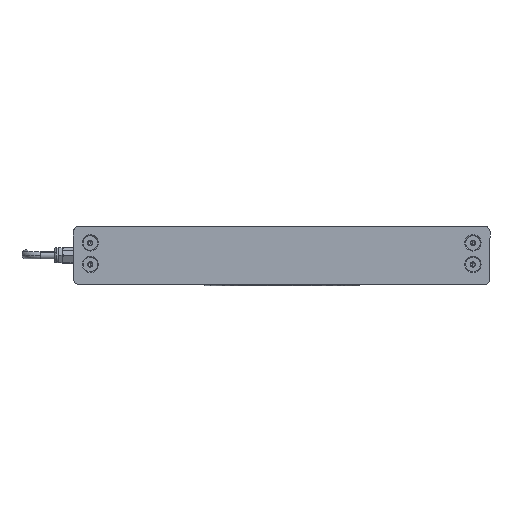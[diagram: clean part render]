
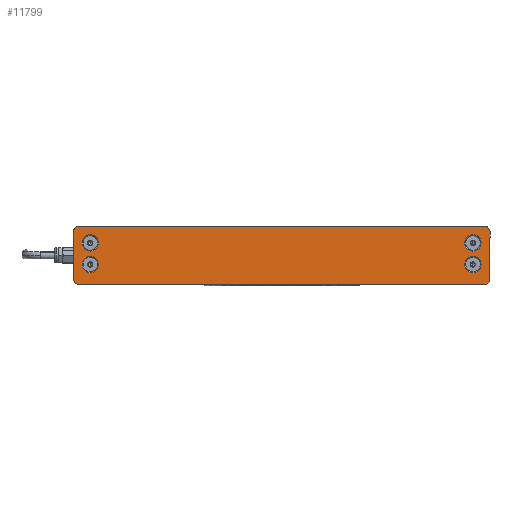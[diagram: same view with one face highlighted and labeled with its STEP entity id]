
A CAD part, left-side view. The second image highlights one B-rep face of the part: STEP entity #11799.
In plain terms, the highlighted planar face has unit normal (-1, 0, 0) as drawn and (0, 0, -1) by its records, which use the part's own axes.
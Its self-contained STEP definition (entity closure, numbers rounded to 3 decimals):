
#51 = ORIENTED_EDGE ( 'NONE', *, *, #17720, .F. ) ;
#259 = CARTESIAN_POINT ( 'NONE',  ( -139., 20., 0. ) ) ;
#484 = DIRECTION ( 'NONE',  ( 0., 0., 1. ) ) ;
#670 = FACE_BOUND ( 'NONE', #11288, .T. ) ;
#966 = CIRCLE ( 'NONE', #5995, 5.6 ) ;
#990 = CIRCLE ( 'NONE', #16155, 4. ) ;
#1083 = DIRECTION ( 'NONE',  ( 0., 0., -1. ) ) ;
#1392 = EDGE_CURVE ( 'NONE', #20185, #16234, #966, .T. ) ;
#1502 = CIRCLE ( 'NONE', #8713, 5.6 ) ;
#1553 = EDGE_LOOP ( 'NONE', ( #11889, #51 ) ) ;
#1567 = VERTEX_POINT ( 'NONE', #21733 ) ;
#1645 = CARTESIAN_POINT ( 'NONE',  ( -136.9, 8.5, 0. ) ) ;
#1744 = EDGE_CURVE ( 'NONE', #23253, #9575, #16129, .T. ) ;
#1856 = DIRECTION ( 'NONE',  ( 0., 0., -1. ) ) ;
#2040 = LINE ( 'NONE', #6143, #6807 ) ;
#2194 = ORIENTED_EDGE ( 'NONE', *, *, #12854, .F. ) ;
#2305 = CIRCLE ( 'NONE', #5258, 5.6 ) ;
#2333 = CARTESIAN_POINT ( 'NONE',  ( 139., -16., 0. ) ) ;
#2732 = VERTEX_POINT ( 'NONE', #10463 ) ;
#2895 = PLANE ( 'NONE',  #9731 ) ;
#3016 = ORIENTED_EDGE ( 'NONE', *, *, #24455, .F. ) ;
#3921 = VECTOR ( 'NONE', #19137, 1000. ) ;
#3988 = CIRCLE ( 'NONE', #23305, 5.6 ) ;
#4315 = DIRECTION ( 'NONE',  ( 0., 0., -1. ) ) ;
#4705 = EDGE_CURVE ( 'NONE', #20123, #17259, #23030, .T. ) ;
#4782 = LINE ( 'NONE', #15085, #3921 ) ;
#5258 = AXIS2_PLACEMENT_3D ( 'NONE', #12066, #20074, #18107 ) ;
#5399 = DIRECTION ( 'NONE',  ( -1., 0., 0. ) ) ;
#5424 = DIRECTION ( 'NONE',  ( -1., 0., 0. ) ) ;
#5548 = DIRECTION ( 'NONE',  ( -1., 0., 0. ) ) ;
#5949 = DIRECTION ( 'NONE',  ( -1., 0., 0. ) ) ;
#5964 = CARTESIAN_POINT ( 'NONE',  ( -143., 16., 0. ) ) ;
#5995 = AXIS2_PLACEMENT_3D ( 'NONE', #13487, #7416, #5424 ) ;
#6044 = AXIS2_PLACEMENT_3D ( 'NONE', #24828, #4315, #18683 ) ;
#6091 = CARTESIAN_POINT ( 'NONE',  ( -125.7, -6.3, 0. ) ) ;
#6143 = CARTESIAN_POINT ( 'NONE',  ( -143., -16., 0. ) ) ;
#6180 = CARTESIAN_POINT ( 'NONE',  ( -139., 16., 0. ) ) ;
#6573 = DIRECTION ( 'NONE',  ( 1., 0., 0. ) ) ;
#6586 = ORIENTED_EDGE ( 'NONE', *, *, #21047, .F. ) ;
#6604 = VECTOR ( 'NONE', #5548, 1000. ) ;
#6756 = CIRCLE ( 'NONE', #21431, 5.6 ) ;
#6807 = VECTOR ( 'NONE', #14201, 1000. ) ;
#6934 = VERTEX_POINT ( 'NONE', #24730 ) ;
#6972 = VECTOR ( 'NONE', #23780, 1000. ) ;
#7416 = DIRECTION ( 'NONE',  ( 0., 0., -1. ) ) ;
#7498 = ORIENTED_EDGE ( 'NONE', *, *, #15204, .F. ) ;
#7538 = DIRECTION ( 'NONE',  ( -1., 0., 0. ) ) ;
#7652 = EDGE_LOOP ( 'NONE', ( #2194, #16464 ) ) ;
#7782 = CARTESIAN_POINT ( 'NONE',  ( 131.3, 8.5, 0. ) ) ;
#8259 = ORIENTED_EDGE ( 'NONE', *, *, #11930, .F. ) ;
#8713 = AXIS2_PLACEMENT_3D ( 'NONE', #23398, #21812, #13563 ) ;
#8833 = CARTESIAN_POINT ( 'NONE',  ( 136.9, -6.3, 0. ) ) ;
#9575 = VERTEX_POINT ( 'NONE', #24262 ) ;
#9627 = DIRECTION ( 'NONE',  ( -1., 0., 0. ) ) ;
#9678 = DIRECTION ( 'NONE',  ( -1., 0., 0. ) ) ;
#9731 = AXIS2_PLACEMENT_3D ( 'NONE', #10973, #25382, #9627 ) ;
#10129 = CARTESIAN_POINT ( 'NONE',  ( 143., -16., 0. ) ) ;
#10133 = ORIENTED_EDGE ( 'NONE', *, *, #25975, .F. ) ;
#10196 = ORIENTED_EDGE ( 'NONE', *, *, #18959, .F. ) ;
#10463 = CARTESIAN_POINT ( 'NONE',  ( -139., -20., 0. ) ) ;
#10716 = FACE_BOUND ( 'NONE', #1553, .T. ) ;
#10846 = FACE_OUTER_BOUND ( 'NONE', #17391, .T. ) ;
#10973 = CARTESIAN_POINT ( 'NONE',  ( 139., 16., 0. ) ) ;
#11028 = VERTEX_POINT ( 'NONE', #15110 ) ;
#11288 = EDGE_LOOP ( 'NONE', ( #7498, #18335 ) ) ;
#11715 = AXIS2_PLACEMENT_3D ( 'NONE', #23683, #17651, #5399 ) ;
#11799 = ADVANCED_FACE ( 'NONE', ( #14795, #10716, #20808, #670, #10846 ), #2895, .T. ) ;
#11879 = DIRECTION ( 'NONE',  ( 0., 0., -1. ) ) ;
#11889 = ORIENTED_EDGE ( 'NONE', *, *, #1392, .F. ) ;
#11930 = EDGE_CURVE ( 'NONE', #18538, #13575, #25668, .T. ) ;
#12066 = CARTESIAN_POINT ( 'NONE',  ( -131.3, 8.5, 0. ) ) ;
#12854 = EDGE_CURVE ( 'NONE', #1567, #16539, #6756, .T. ) ;
#13432 = EDGE_CURVE ( 'NONE', #11028, #2732, #990, .T. ) ;
#13487 = CARTESIAN_POINT ( 'NONE',  ( 131.3, -6.3, 0. ) ) ;
#13563 = DIRECTION ( 'NONE',  ( -1., 0., 0. ) ) ;
#13575 = VERTEX_POINT ( 'NONE', #5964 ) ;
#13856 = DIRECTION ( 'NONE',  ( -1., 0., 0. ) ) ;
#14058 = VERTEX_POINT ( 'NONE', #18718 ) ;
#14201 = DIRECTION ( 'NONE',  ( 0., -1., 0. ) ) ;
#14286 = CARTESIAN_POINT ( 'NONE',  ( -131.3, -6.3, 0. ) ) ;
#14795 = FACE_BOUND ( 'NONE', #7652, .T. ) ;
#15008 = AXIS2_PLACEMENT_3D ( 'NONE', #2333, #484, #6573 ) ;
#15085 = CARTESIAN_POINT ( 'NONE',  ( -139., -20., 0. ) ) ;
#15110 = CARTESIAN_POINT ( 'NONE',  ( -143., -16., 0. ) ) ;
#15204 = EDGE_CURVE ( 'NONE', #9575, #23253, #20389, .T. ) ;
#15415 = VERTEX_POINT ( 'NONE', #1645 ) ;
#15479 = CIRCLE ( 'NONE', #25946, 5.6 ) ;
#15816 = DIRECTION ( 'NONE',  ( -1., 0., 0. ) ) ;
#15943 = DIRECTION ( 'NONE',  ( 0., 0., -1. ) ) ;
#16052 = LINE ( 'NONE', #10129, #6972 ) ;
#16129 = CIRCLE ( 'NONE', #19471, 5.6 ) ;
#16138 = VERTEX_POINT ( 'NONE', #22215 ) ;
#16155 = AXIS2_PLACEMENT_3D ( 'NONE', #23458, #17692, #9678 ) ;
#16234 = VERTEX_POINT ( 'NONE', #8833 ) ;
#16464 = ORIENTED_EDGE ( 'NONE', *, *, #16578, .F. ) ;
#16539 = VERTEX_POINT ( 'NONE', #18872 ) ;
#16578 = EDGE_CURVE ( 'NONE', #16539, #1567, #3988, .T. ) ;
#17259 = VERTEX_POINT ( 'NONE', #20479 ) ;
#17317 = ORIENTED_EDGE ( 'NONE', *, *, #13432, .F. ) ;
#17391 = EDGE_LOOP ( 'NONE', ( #21363, #22419, #23877, #6586, #17317, #10196, #8259, #10133 ) ) ;
#17651 = DIRECTION ( 'NONE',  ( 0., 0., 1. ) ) ;
#17692 = DIRECTION ( 'NONE',  ( 0., 0., 1. ) ) ;
#17699 = AXIS2_PLACEMENT_3D ( 'NONE', #6180, #18431, #24449 ) ;
#17720 = EDGE_CURVE ( 'NONE', #16234, #20185, #1502, .T. ) ;
#17766 = EDGE_CURVE ( 'NONE', #16138, #6934, #19184, .T. ) ;
#18107 = DIRECTION ( 'NONE',  ( -1., 0., 0. ) ) ;
#18335 = ORIENTED_EDGE ( 'NONE', *, *, #1744, .F. ) ;
#18431 = DIRECTION ( 'NONE',  ( 0., 0., 1. ) ) ;
#18503 = EDGE_CURVE ( 'NONE', #15415, #14058, #15479, .T. ) ;
#18538 = VERTEX_POINT ( 'NONE', #259 ) ;
#18683 = DIRECTION ( 'NONE',  ( -1., 0., 0. ) ) ;
#18718 = CARTESIAN_POINT ( 'NONE',  ( -125.7, 8.5, 0. ) ) ;
#18872 = CARTESIAN_POINT ( 'NONE',  ( 136.9, 8.5, 0. ) ) ;
#18959 = EDGE_CURVE ( 'NONE', #13575, #11028, #2040, .T. ) ;
#19137 = DIRECTION ( 'NONE',  ( 1., 0., 0. ) ) ;
#19184 = CIRCLE ( 'NONE', #15008, 4. ) ;
#19471 = AXIS2_PLACEMENT_3D ( 'NONE', #14286, #1856, #5949 ) ;
#19898 = LINE ( 'NONE', #25940, #6604 ) ;
#20074 = DIRECTION ( 'NONE',  ( 0., 0., -1. ) ) ;
#20123 = VERTEX_POINT ( 'NONE', #25776 ) ;
#20185 = VERTEX_POINT ( 'NONE', #24445 ) ;
#20389 = CIRCLE ( 'NONE', #6044, 5.6 ) ;
#20479 = CARTESIAN_POINT ( 'NONE',  ( 139., 20., 0. ) ) ;
#20808 = FACE_BOUND ( 'NONE', #23544, .T. ) ;
#20827 = ORIENTED_EDGE ( 'NONE', *, *, #18503, .F. ) ;
#21047 = EDGE_CURVE ( 'NONE', #2732, #16138, #4782, .T. ) ;
#21363 = ORIENTED_EDGE ( 'NONE', *, *, #4705, .F. ) ;
#21431 = AXIS2_PLACEMENT_3D ( 'NONE', #7782, #15943, #15816 ) ;
#21710 = CARTESIAN_POINT ( 'NONE',  ( 131.3, 8.5, 0. ) ) ;
#21733 = CARTESIAN_POINT ( 'NONE',  ( 125.7, 8.5, 0. ) ) ;
#21812 = DIRECTION ( 'NONE',  ( 0., 0., -1. ) ) ;
#22215 = CARTESIAN_POINT ( 'NONE',  ( 139., -20., 0. ) ) ;
#22419 = ORIENTED_EDGE ( 'NONE', *, *, #25109, .F. ) ;
#23030 = CIRCLE ( 'NONE', #11715, 4. ) ;
#23253 = VERTEX_POINT ( 'NONE', #6091 ) ;
#23305 = AXIS2_PLACEMENT_3D ( 'NONE', #21710, #11879, #13856 ) ;
#23398 = CARTESIAN_POINT ( 'NONE',  ( 131.3, -6.3, 0. ) ) ;
#23458 = CARTESIAN_POINT ( 'NONE',  ( -139., -16., 0. ) ) ;
#23544 = EDGE_LOOP ( 'NONE', ( #20827, #3016 ) ) ;
#23683 = CARTESIAN_POINT ( 'NONE',  ( 139., 16., 0. ) ) ;
#23780 = DIRECTION ( 'NONE',  ( 0., 1., 0. ) ) ;
#23877 = ORIENTED_EDGE ( 'NONE', *, *, #17766, .F. ) ;
#24262 = CARTESIAN_POINT ( 'NONE',  ( -136.9, -6.3, 0. ) ) ;
#24445 = CARTESIAN_POINT ( 'NONE',  ( 125.7, -6.3, 0. ) ) ;
#24449 = DIRECTION ( 'NONE',  ( -1., 0., 0. ) ) ;
#24455 = EDGE_CURVE ( 'NONE', #14058, #15415, #2305, .T. ) ;
#24730 = CARTESIAN_POINT ( 'NONE',  ( 143., -16., 0. ) ) ;
#24828 = CARTESIAN_POINT ( 'NONE',  ( -131.3, -6.3, 0. ) ) ;
#25109 = EDGE_CURVE ( 'NONE', #6934, #20123, #16052, .T. ) ;
#25275 = CARTESIAN_POINT ( 'NONE',  ( -131.3, 8.5, 0. ) ) ;
#25382 = DIRECTION ( 'NONE',  ( 0., 0., -1. ) ) ;
#25668 = CIRCLE ( 'NONE', #17699, 4. ) ;
#25776 = CARTESIAN_POINT ( 'NONE',  ( 143., 16., 0. ) ) ;
#25940 = CARTESIAN_POINT ( 'NONE',  ( -139., 20., 0. ) ) ;
#25946 = AXIS2_PLACEMENT_3D ( 'NONE', #25275, #1083, #7538 ) ;
#25975 = EDGE_CURVE ( 'NONE', #17259, #18538, #19898, .T. ) ;
